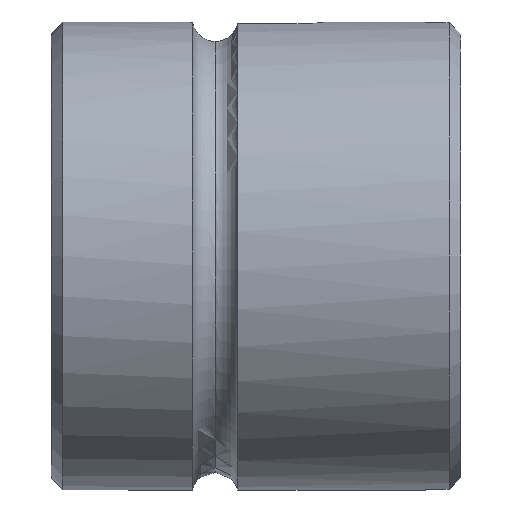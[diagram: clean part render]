
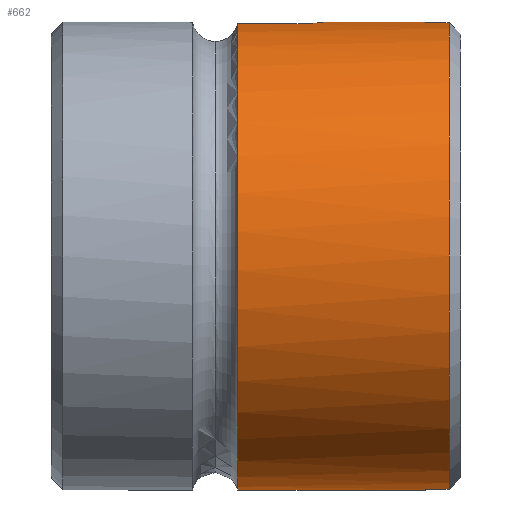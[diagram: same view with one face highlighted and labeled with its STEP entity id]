
A CAD part, front view. The second image highlights one B-rep face of the part: STEP entity #662.
In plain terms, the highlighted cylindrical face has radius 20 mm (diameter 40 mm), a partial arc.
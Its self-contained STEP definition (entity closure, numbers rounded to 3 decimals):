
#18 = VECTOR ( 'NONE', #190, 1000. ) ;
#26 = ORIENTED_EDGE ( 'NONE', *, *, #582, .F. ) ;
#32 = CARTESIAN_POINT ( 'NONE',  ( -3., 0., 20. ) ) ;
#37 = CARTESIAN_POINT ( 'NONE',  ( -13.835, -2.5, 19.843 ) ) ;
#42 = CIRCLE ( 'NONE', #1079, 20. ) ;
#43 = CARTESIAN_POINT ( 'NONE',  ( -19.064, -2.5, 19.843 ) ) ;
#45 = DIRECTION ( 'NONE',  ( 0., 0., 1. ) ) ;
#57 = CARTESIAN_POINT ( 'NONE',  ( -11.628, -0.806, 19.984 ) ) ;
#96 = CARTESIAN_POINT ( 'NONE',  ( -67.863, 0., 20. ) ) ;
#104 = DIRECTION ( 'NONE',  ( -1., 0., 0. ) ) ;
#112 = VERTEX_POINT ( 'NONE', #781 ) ;
#125 = ORIENTED_EDGE ( 'NONE', *, *, #643, .F. ) ;
#141 = CARTESIAN_POINT ( 'NONE',  ( -11.516, -0.326, 19.998 ) ) ;
#153 = CARTESIAN_POINT ( 'NONE',  ( -3., -1.5, 19.944 ) ) ;
#167 = VECTOR ( 'NONE', #968, 1000. ) ;
#168 = ORIENTED_EDGE ( 'NONE', *, *, #521, .T. ) ;
#171 = CARTESIAN_POINT ( 'NONE',  ( -67.863, -1.5, -19.944 ) ) ;
#179 = EDGE_CURVE ( 'NONE', #789, #600, #419, .T. ) ;
#190 = DIRECTION ( 'NONE',  ( -1., 0., 0. ) ) ;
#197 = CARTESIAN_POINT ( 'NONE',  ( -3., -1.5, -19.944 ) ) ;
#202 = CARTESIAN_POINT ( 'NONE',  ( -13.352, -2.42, 19.853 ) ) ;
#231 = CARTESIAN_POINT ( 'NONE',  ( -11.5, 0., 20. ) ) ;
#238 = AXIS2_PLACEMENT_3D ( 'NONE', #525, #883, #787 ) ;
#239 = LINE ( 'NONE', #96, #18 ) ;
#259 = CARTESIAN_POINT ( 'NONE',  ( -67.863, -2.5, 19.843 ) ) ;
#274 = DIRECTION ( 'NONE',  ( -1., 0., 0. ) ) ;
#305 = CARTESIAN_POINT ( 'NONE',  ( -12.747, -2.169, 19.882 ) ) ;
#337 = LINE ( 'NONE', #259, #167 ) ;
#340 = EDGE_CURVE ( 'NONE', #112, #409, #899, .T. ) ;
#342 = VERTEX_POINT ( 'NONE', #197 ) ;
#343 = CARTESIAN_POINT ( 'NONE',  ( -3., 0., 0. ) ) ;
#369 = VECTOR ( 'NONE', #512, 1000. ) ;
#394 = ORIENTED_EDGE ( 'NONE', *, *, #823, .F. ) ;
#400 = CARTESIAN_POINT ( 'NONE',  ( -12.347, -1.882, 19.912 ) ) ;
#409 = VERTEX_POINT ( 'NONE', #671 ) ;
#419 = CIRCLE ( 'NONE', #728, 20. ) ;
#434 = DIRECTION ( 'NONE',  ( 0., -1., 0. ) ) ;
#439 = VERTEX_POINT ( 'NONE', #518 ) ;
#445 = VECTOR ( 'NONE', #274, 1000. ) ;
#463 = CARTESIAN_POINT ( 'NONE',  ( -3., 0., 0. ) ) ;
#484 = CARTESIAN_POINT ( 'NONE',  ( -12.013, -1.526, 19.942 ) ) ;
#486 = CARTESIAN_POINT ( 'NONE',  ( -3., 0., -20. ) ) ;
#495 = CYLINDRICAL_SURFACE ( 'NONE', #238, 20. ) ;
#512 = DIRECTION ( 'NONE',  ( 1., 0., 0. ) ) ;
#518 = CARTESIAN_POINT ( 'NONE',  ( -1., -1.5, 19.944 ) ) ;
#521 = EDGE_CURVE ( 'NONE', #342, #978, #1071, .T. ) ;
#525 = CARTESIAN_POINT ( 'NONE',  ( -67.863, 0., 0. ) ) ;
#536 = CARTESIAN_POINT ( 'NONE',  ( -14., -2.5, 19.843 ) ) ;
#538 = EDGE_LOOP ( 'NONE', ( #394, #744, #168, #1051, #833, #712, #770, #986, #26, #125 ) ) ;
#547 = DIRECTION ( 'NONE',  ( 0., -1., 0. ) ) ;
#552 = CARTESIAN_POINT ( 'NONE',  ( -67.863, -1.5, 19.944 ) ) ;
#555 = DIRECTION ( 'NONE',  ( -1., 0., 0. ) ) ;
#569 = CARTESIAN_POINT ( 'NONE',  ( -11.753, -1.107, 19.97 ) ) ;
#582 = EDGE_CURVE ( 'NONE', #625, #112, #337, .T. ) ;
#600 = VERTEX_POINT ( 'NONE', #32 ) ;
#625 = VERTEX_POINT ( 'NONE', #43 ) ;
#630 = CARTESIAN_POINT ( 'NONE',  ( -1., 0., 0. ) ) ;
#636 = VERTEX_POINT ( 'NONE', #731 ) ;
#643 = EDGE_CURVE ( 'NONE', #636, #625, #771, .T. ) ;
#650 = DIRECTION ( 'NONE',  ( -1., 0., 0. ) ) ;
#662 = ADVANCED_FACE ( 'NONE', ( #753 ), #495, .T. ) ;
#666 = CARTESIAN_POINT ( 'NONE',  ( -11.58, -0.649, 19.99 ) ) ;
#671 = CARTESIAN_POINT ( 'NONE',  ( -11.5, 0., 20. ) ) ;
#683 = LINE ( 'NONE', #1067, #445 ) ;
#702 = EDGE_CURVE ( 'NONE', #978, #439, #42, .T. ) ;
#712 = ORIENTED_EDGE ( 'NONE', *, *, #179, .T. ) ;
#714 = DIRECTION ( 'NONE',  ( 0., 0., 1. ) ) ;
#720 = CARTESIAN_POINT ( 'NONE',  ( -13.672, -2.484, 19.845 ) ) ;
#728 = AXIS2_PLACEMENT_3D ( 'NONE', #343, #954, #434 ) ;
#731 = CARTESIAN_POINT ( 'NONE',  ( -19.064, 0., -20. ) ) ;
#744 = ORIENTED_EDGE ( 'NONE', *, *, #1024, .T. ) ;
#748 = CARTESIAN_POINT ( 'NONE',  ( -11.5, -0.163, 20. ) ) ;
#753 = FACE_OUTER_BOUND ( 'NONE', #538, .T. ) ;
#770 = ORIENTED_EDGE ( 'NONE', *, *, #907, .T. ) ;
#771 = CIRCLE ( 'NONE', #953, 20. ) ;
#781 = CARTESIAN_POINT ( 'NONE',  ( -14., -2.5, 19.843 ) ) ;
#787 = DIRECTION ( 'NONE',  ( 0., 0., 1. ) ) ;
#789 = VERTEX_POINT ( 'NONE', #153 ) ;
#791 = CIRCLE ( 'NONE', #947, 20. ) ;
#792 = VERTEX_POINT ( 'NONE', #486 ) ;
#804 = CARTESIAN_POINT ( 'NONE',  ( -1., -1.5, -19.944 ) ) ;
#823 = EDGE_CURVE ( 'NONE', #792, #636, #683, .T. ) ;
#833 = ORIENTED_EDGE ( 'NONE', *, *, #1083, .T. ) ;
#838 = CARTESIAN_POINT ( 'NONE',  ( -12.891, -2.246, 19.874 ) ) ;
#858 = CARTESIAN_POINT ( 'NONE',  ( -13.193, -2.372, 19.859 ) ) ;
#883 = DIRECTION ( 'NONE',  ( -1., 0., 0. ) ) ;
#899 = B_SPLINE_CURVE_WITH_KNOTS ( 'NONE', 3,
 ( #536, #37, #720, #202, #858, #838, #305, #927, #400, #1002, #484, #1104, #569, #57, #666, #141, #748, #231 ),
 .UNSPECIFIED., .F., .F.,
 ( 4, 2, 2, 2, 2, 2, 2, 2, 4 ),
 ( 0., 0., 0.001, 0.001, 0.002, 0.002, 0.003, 0.003, 0.004 ),
 .UNSPECIFIED. ) ;
#907 = EDGE_CURVE ( 'NONE', #600, #409, #239, .T. ) ;
#927 = CARTESIAN_POINT ( 'NONE',  ( -12.475, -1.988, 19.901 ) ) ;
#947 = AXIS2_PLACEMENT_3D ( 'NONE', #463, #1081, #547 ) ;
#953 = AXIS2_PLACEMENT_3D ( 'NONE', #1087, #555, #45 ) ;
#954 = DIRECTION ( 'NONE',  ( -1., 0., 0. ) ) ;
#967 = VECTOR ( 'NONE', #650, 1000. ) ;
#968 = DIRECTION ( 'NONE',  ( 1., 0., 0. ) ) ;
#978 = VERTEX_POINT ( 'NONE', #804 ) ;
#986 = ORIENTED_EDGE ( 'NONE', *, *, #340, .F. ) ;
#993 = LINE ( 'NONE', #552, #967 ) ;
#1002 = CARTESIAN_POINT ( 'NONE',  ( -12.116, -1.652, 19.932 ) ) ;
#1024 = EDGE_CURVE ( 'NONE', #792, #342, #791, .T. ) ;
#1051 = ORIENTED_EDGE ( 'NONE', *, *, #702, .T. ) ;
#1067 = CARTESIAN_POINT ( 'NONE',  ( -67.863, 0., -20. ) ) ;
#1071 = LINE ( 'NONE', #171, #369 ) ;
#1079 = AXIS2_PLACEMENT_3D ( 'NONE', #630, #104, #714 ) ;
#1081 = DIRECTION ( 'NONE',  ( -1., 0., 0. ) ) ;
#1083 = EDGE_CURVE ( 'NONE', #439, #789, #993, .T. ) ;
#1087 = CARTESIAN_POINT ( 'NONE',  ( -19.064, 0., 0. ) ) ;
#1104 = CARTESIAN_POINT ( 'NONE',  ( -11.83, -1.253, 19.961 ) ) ;
